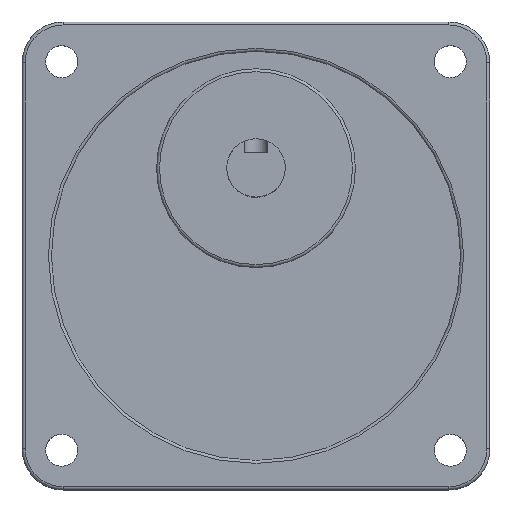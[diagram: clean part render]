
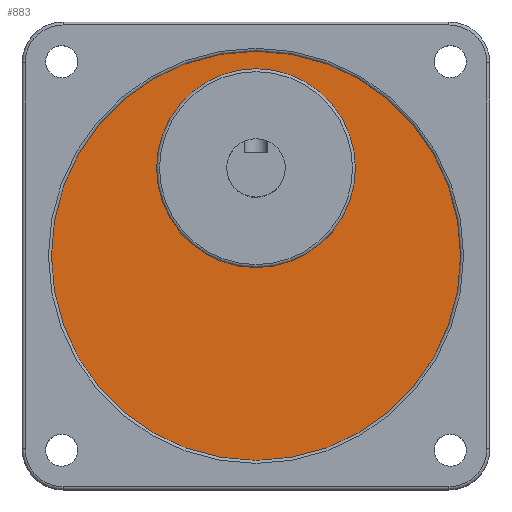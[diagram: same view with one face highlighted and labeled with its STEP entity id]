
A CAD part, top view. The second image highlights one B-rep face of the part: STEP entity #883.
In plain terms, the highlighted planar face has unit normal (0, 0, 1).
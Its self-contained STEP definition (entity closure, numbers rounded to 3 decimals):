
#476=CARTESIAN_POINT('',(35.0,0.,31.3));
#477=VERTEX_POINT('',#476);
#478=CARTESIAN_POINT('',(0.0,0.0,31.3));
#479=DIRECTION('',(0.0,0.0,1.0));
#480=DIRECTION('',(-1.0,0.0,0.0));
#481=AXIS2_PLACEMENT_3D('',#478,#479,#480);
#482=CIRCLE('',#481,35.0);
#483=EDGE_CURVE('',#477,#477,#482,.T.);
#833=CARTESIAN_POINT('',(17.0,15.,31.3));
#834=VERTEX_POINT('',#833);
#835=CARTESIAN_POINT('',(0.0,15.0,31.3));
#836=DIRECTION('',(0.0,0.0,-1.0));
#837=DIRECTION('',(-1.0,0.0,0.0));
#838=AXIS2_PLACEMENT_3D('',#835,#836,#837);
#839=CIRCLE('',#838,17.0);
#840=EDGE_CURVE('',#834,#834,#839,.T.);
#872=CARTESIAN_POINT('',(0.0,0.0,31.3));
#873=DIRECTION('',(0.0,0.0,-1.0));
#874=DIRECTION('',(-1.0,0.0,0.0));
#875=AXIS2_PLACEMENT_3D('',#872,#873,#874);
#876=PLANE('',#875);
#877=ORIENTED_EDGE('',*,*,#483,.T.);
#878=EDGE_LOOP('',(#877));
#879=FACE_OUTER_BOUND('',#878,.T.);
#880=ORIENTED_EDGE('',*,*,#840,.T.);
#881=EDGE_LOOP('',(#880));
#882=FACE_BOUND('',#881,.T.);
#883=ADVANCED_FACE('',(#879,#882),#876,.F.);
